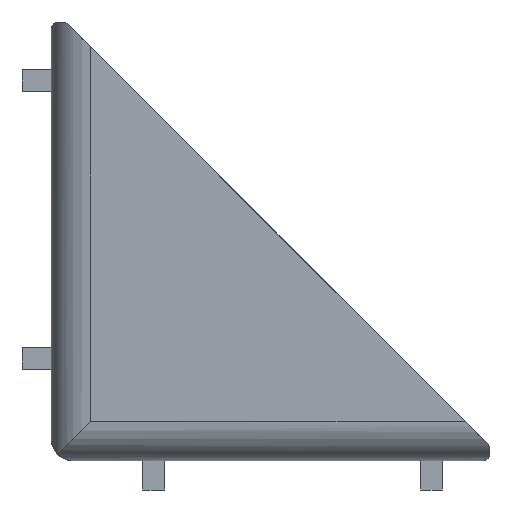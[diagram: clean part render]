
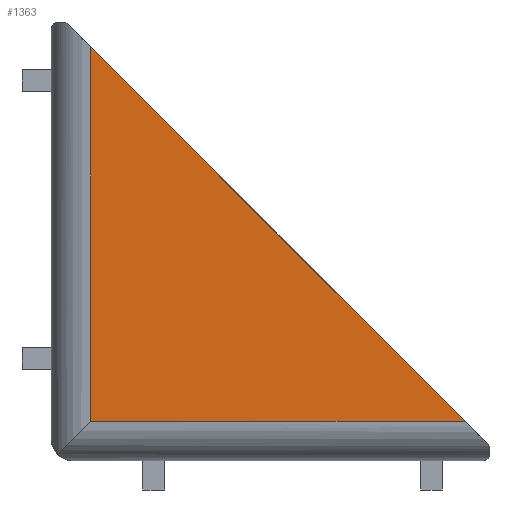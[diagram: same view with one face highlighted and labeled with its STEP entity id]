
A CAD part, left-side view. The second image highlights one B-rep face of the part: STEP entity #1363.
In plain terms, the highlighted planar face has unit normal (-1, 0, 0).
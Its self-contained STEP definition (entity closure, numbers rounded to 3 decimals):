
#57 = CARTESIAN_POINT ( 'NONE',  ( -15., -2.7, 30. ) ) ;
#93 = FACE_OUTER_BOUND ( 'NONE', #1232, .T. ) ;
#114 = DIRECTION ( 'NONE',  ( 1., 0., 0. ) ) ;
#122 = DIRECTION ( 'NONE',  ( 0., -0.707, -0.707 ) ) ;
#136 = VECTOR ( 'NONE', #1465, 1000. ) ;
#138 = ORIENTED_EDGE ( 'NONE', *, *, #1029, .F. ) ;
#140 = VERTEX_POINT ( 'NONE', #150 ) ;
#150 = CARTESIAN_POINT ( 'NONE',  ( -15., -28.3, 2.7 ) ) ;
#219 = CARTESIAN_POINT ( 'NONE',  ( -15., -2.7, 28.3 ) ) ;
#249 = PLANE ( 'NONE',  #1888 ) ;
#293 = VERTEX_POINT ( 'NONE', #219 ) ;
#307 = VECTOR ( 'NONE', #122, 1000. ) ;
#315 = EDGE_CURVE ( 'NONE', #913, #293, #846, .T. ) ;
#438 = ORIENTED_EDGE ( 'NONE', *, *, #315, .F. ) ;
#530 = VECTOR ( 'NONE', #531, 1000. ) ;
#531 = DIRECTION ( 'NONE',  ( 0., 0., 1. ) ) ;
#539 = LINE ( 'NONE', #1452, #136 ) ;
#567 = CARTESIAN_POINT ( 'NONE',  ( -15., -2.7, 28.3 ) ) ;
#579 = CARTESIAN_POINT ( 'NONE',  ( -15., -10.888, 10.888 ) ) ;
#801 = CARTESIAN_POINT ( 'NONE',  ( -15., -2.7, 2.7 ) ) ;
#846 = LINE ( 'NONE', #57, #530 ) ;
#913 = VERTEX_POINT ( 'NONE', #801 ) ;
#1029 = EDGE_CURVE ( 'NONE', #140, #913, #539, .T. ) ;
#1175 = ORIENTED_EDGE ( 'NONE', *, *, #1798, .F. ) ;
#1232 = EDGE_LOOP ( 'NONE', ( #1175, #438, #138 ) ) ;
#1363 = ADVANCED_FACE ( 'NONE', ( #93 ), #249, .F. ) ;
#1452 = CARTESIAN_POINT ( 'NONE',  ( -15., 0., 2.7 ) ) ;
#1465 = DIRECTION ( 'NONE',  ( 0., 1., 0. ) ) ;
#1493 = LINE ( 'NONE', #567, #307 ) ;
#1672 = DIRECTION ( 'NONE',  ( 0., 0., -1. ) ) ;
#1798 = EDGE_CURVE ( 'NONE', #293, #140, #1493, .T. ) ;
#1888 = AXIS2_PLACEMENT_3D ( 'NONE', #579, #114, #1672 ) ;
